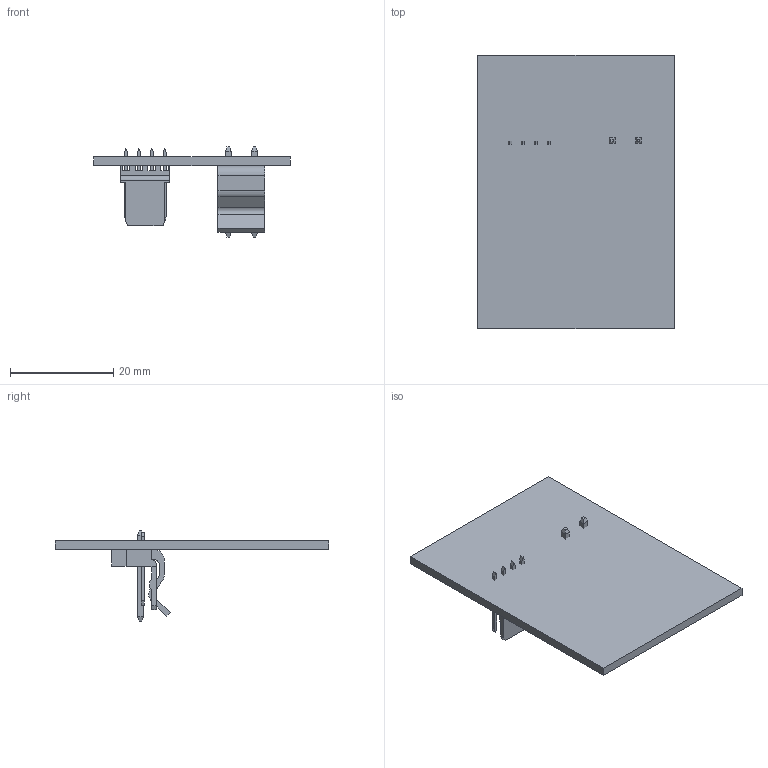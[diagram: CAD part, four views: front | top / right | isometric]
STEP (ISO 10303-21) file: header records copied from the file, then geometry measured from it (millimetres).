
FILE_DESCRIPTION(('Open CASCADE Model'),'2;1');
FILE_NAME('Open CASCADE Shape Model','2021-06-23T17:07:36',('Author'),( 'Open CASCADE'),'Open CASCADE STEP processor 6.8','Open CASCADE 6.8' ,'Unknown');
FILE_SCHEMA(('AUTOMOTIVE_DESIGN { 1 0 10303 214 1 1 1 1 }'));
Length unit declared in the file: millimetre
Products named in the file (10): PCB; Board; CN3; 022041041; Open CASCADE STEP translator 6.8 1.2.1.1; Open CASCADE STEP translator 6.8 1.2.1.2; CN2; 010321021; Open CASCADE STEP translator 6.8 1.3.1.1; Open CASCADE STEP translator 6.8 1.3.1.2
Assembly tree (9 placements, depth 4):
  PCB
    Board
    CN3
      022041041
        Open CASCADE STEP translator 6.8 1.2.1.1
        Open CASCADE STEP translator 6.8 1.2.1.2
    CN2
      010321021
        Open CASCADE STEP translator 6.8 1.3.1.1
        Open CASCADE STEP translator 6.8 1.3.1.2
Bounding box: 38 x 53 x 17.45 mm (x, y, z)
Volume: 4005.7 mm3; surface area: 5497.5 mm2
Topology: 3 solids, 3 shells, 166 faces, 431 edges, 298 vertices
Faces by surface type: plane 159, cylinder 7
Entity records: 5150 total; most frequent: CARTESIAN_POINT 905, ORIENTED_EDGE 838, DIRECTION 809, EDGE_CURVE 419, LINE 405, VECTOR 405, VERTEX_POINT 274, AXIS2_PLACEMENT_3D 202
